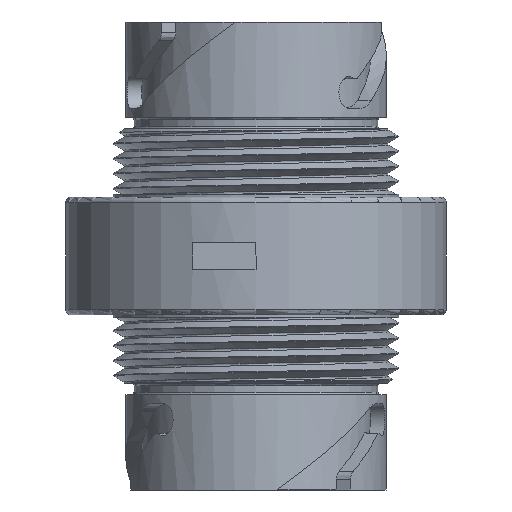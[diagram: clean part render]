
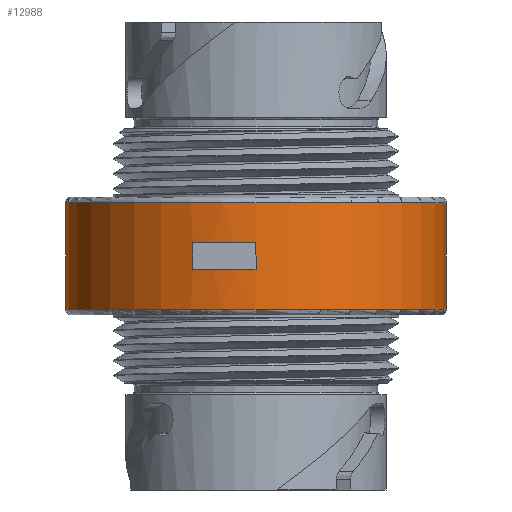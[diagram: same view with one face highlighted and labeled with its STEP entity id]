
A CAD part, front view. The second image highlights one B-rep face of the part: STEP entity #12988.
In plain terms, the highlighted cylindrical face has radius 17.907 mm (diameter 35.814 mm), a partial arc.
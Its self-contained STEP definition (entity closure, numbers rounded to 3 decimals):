
#476 = DIRECTION ( 'NONE',  ( 0., 0., 1. ) ) ;
#711 = DIRECTION ( 'NONE',  ( 0., 0., -1. ) ) ;
#959 = CARTESIAN_POINT ( 'NONE',  ( -17.907, 0., -4.775 ) ) ;
#1291 = AXIS2_PLACEMENT_3D ( 'NONE', #12544, #7249, #2350 ) ;
#1334 = VECTOR ( 'NONE', #12422, 1000. ) ;
#2120 = EDGE_CURVE ( 'NONE', #9192, #20344, #2977, .T. ) ;
#2125 = VECTOR ( 'NONE', #2752, 1000. ) ;
#2350 = DIRECTION ( 'NONE',  ( -1., 0., 0. ) ) ;
#2752 = DIRECTION ( 'NONE',  ( 0., 0., 1. ) ) ;
#2977 = LINE ( 'NONE', #8842, #11501 ) ;
#3336 = LINE ( 'NONE', #12058, #11872 ) ;
#3683 = DIRECTION ( 'NONE',  ( 0., 0., 1. ) ) ;
#3763 = CIRCLE ( 'NONE', #4269, 17.907 ) ;
#4269 = AXIS2_PLACEMENT_3D ( 'NONE', #8825, #20757, #10546 ) ;
#4858 = EDGE_CURVE ( 'NONE', #15491, #4972, #21047, .T. ) ;
#4972 = VERTEX_POINT ( 'NONE', #20068 ) ;
#5407 = ORIENTED_EDGE ( 'NONE', *, *, #9397, .T. ) ;
#6022 = CARTESIAN_POINT ( 'NONE',  ( -17.907, 0., 5.029 ) ) ;
#6855 = VERTEX_POINT ( 'NONE', #17604 ) ;
#6862 = CARTESIAN_POINT ( 'NONE',  ( 17.907, 0., -5.029 ) ) ;
#7024 = ORIENTED_EDGE ( 'NONE', *, *, #4858, .T. ) ;
#7040 = ORIENTED_EDGE ( 'NONE', *, *, #8263, .T. ) ;
#7249 = DIRECTION ( 'NONE',  ( 0., 0., 1. ) ) ;
#7575 = ORIENTED_EDGE ( 'NONE', *, *, #10108, .T. ) ;
#8263 = EDGE_CURVE ( 'NONE', #6855, #15491, #11775, .T. ) ;
#8378 = AXIS2_PLACEMENT_3D ( 'NONE', #10667, #476, #12385 ) ;
#8825 = CARTESIAN_POINT ( 'NONE',  ( 0., 0., 5.029 ) ) ;
#8842 = CARTESIAN_POINT ( 'NONE',  ( 0., -17.907, 0. ) ) ;
#8923 = AXIS2_PLACEMENT_3D ( 'NONE', #13868, #3683, #15586 ) ;
#9192 = VERTEX_POINT ( 'NONE', #20371 ) ;
#9397 = EDGE_CURVE ( 'NONE', #4972, #19389, #3763, .T. ) ;
#9615 = CIRCLE ( 'NONE', #8378, 17.907 ) ;
#10108 = EDGE_CURVE ( 'NONE', #17929, #9192, #9615, .T. ) ;
#10153 = CARTESIAN_POINT ( 'NONE',  ( -5.946, -16.891, 1.27 ) ) ;
#10546 = DIRECTION ( 'NONE',  ( -1., 0., 0. ) ) ;
#10567 = DIRECTION ( 'NONE',  ( 0., 0., -1. ) ) ;
#10667 = CARTESIAN_POINT ( 'NONE',  ( 0., 0., 1.27 ) ) ;
#10906 = CARTESIAN_POINT ( 'NONE',  ( 0., 0., -1.27 ) ) ;
#10967 = EDGE_CURVE ( 'NONE', #6855, #19389, #15725, .T. ) ;
#11501 = VECTOR ( 'NONE', #10567, 1000. ) ;
#11775 = CIRCLE ( 'NONE', #8923, 17.907 ) ;
#11872 = VECTOR ( 'NONE', #13772, 1000. ) ;
#12058 = CARTESIAN_POINT ( 'NONE',  ( -5.946, -16.891, -4.775 ) ) ;
#12385 = DIRECTION ( 'NONE',  ( -1., 0., 0. ) ) ;
#12422 = DIRECTION ( 'NONE',  ( 0., 0., 1. ) ) ;
#12502 = FACE_BOUND ( 'NONE', #17206, .T. ) ;
#12544 = CARTESIAN_POINT ( 'NONE',  ( 0., 0., -4.775 ) ) ;
#12625 = DIRECTION ( 'NONE',  ( -1., 0., 0. ) ) ;
#12988 = ADVANCED_FACE ( 'NONE', ( #12502, #21027 ), #20470, .T. ) ;
#13366 = ORIENTED_EDGE ( 'NONE', *, *, #21957, .T. ) ;
#13528 = ORIENTED_EDGE ( 'NONE', *, *, #2120, .T. ) ;
#13772 = DIRECTION ( 'NONE',  ( 0., 0., 1. ) ) ;
#13868 = CARTESIAN_POINT ( 'NONE',  ( 0., 0., -5.029 ) ) ;
#14482 = ORIENTED_EDGE ( 'NONE', *, *, #18529, .T. ) ;
#14603 = CARTESIAN_POINT ( 'NONE',  ( 17.907, 0., -4.775 ) ) ;
#14971 = CARTESIAN_POINT ( 'NONE',  ( 0., -17.907, -1.27 ) ) ;
#15182 = VERTEX_POINT ( 'NONE', #20828 ) ;
#15491 = VERTEX_POINT ( 'NONE', #6862 ) ;
#15586 = DIRECTION ( 'NONE',  ( -1., 0., 0. ) ) ;
#15725 = LINE ( 'NONE', #959, #2125 ) ;
#16491 = EDGE_LOOP ( 'NONE', ( #7040, #7024, #5407, #21934 ) ) ;
#17206 = EDGE_LOOP ( 'NONE', ( #7575, #13528, #14482, #13366 ) ) ;
#17604 = CARTESIAN_POINT ( 'NONE',  ( -17.907, 0., -5.029 ) ) ;
#17929 = VERTEX_POINT ( 'NONE', #10153 ) ;
#18529 = EDGE_CURVE ( 'NONE', #20344, #15182, #20943, .T. ) ;
#19389 = VERTEX_POINT ( 'NONE', #6022 ) ;
#20068 = CARTESIAN_POINT ( 'NONE',  ( 17.907, 0., 5.029 ) ) ;
#20344 = VERTEX_POINT ( 'NONE', #14971 ) ;
#20371 = CARTESIAN_POINT ( 'NONE',  ( 0., -17.907, 1.27 ) ) ;
#20470 = CYLINDRICAL_SURFACE ( 'NONE', #1291, 17.907 ) ;
#20757 = DIRECTION ( 'NONE',  ( 0., 0., -1. ) ) ;
#20828 = CARTESIAN_POINT ( 'NONE',  ( -5.946, -16.891, -1.27 ) ) ;
#20943 = CIRCLE ( 'NONE', #21739, 17.907 ) ;
#21027 = FACE_OUTER_BOUND ( 'NONE', #16491, .T. ) ;
#21047 = LINE ( 'NONE', #14603, #1334 ) ;
#21739 = AXIS2_PLACEMENT_3D ( 'NONE', #10906, #711, #12625 ) ;
#21934 = ORIENTED_EDGE ( 'NONE', *, *, #10967, .F. ) ;
#21957 = EDGE_CURVE ( 'NONE', #15182, #17929, #3336, .T. ) ;
